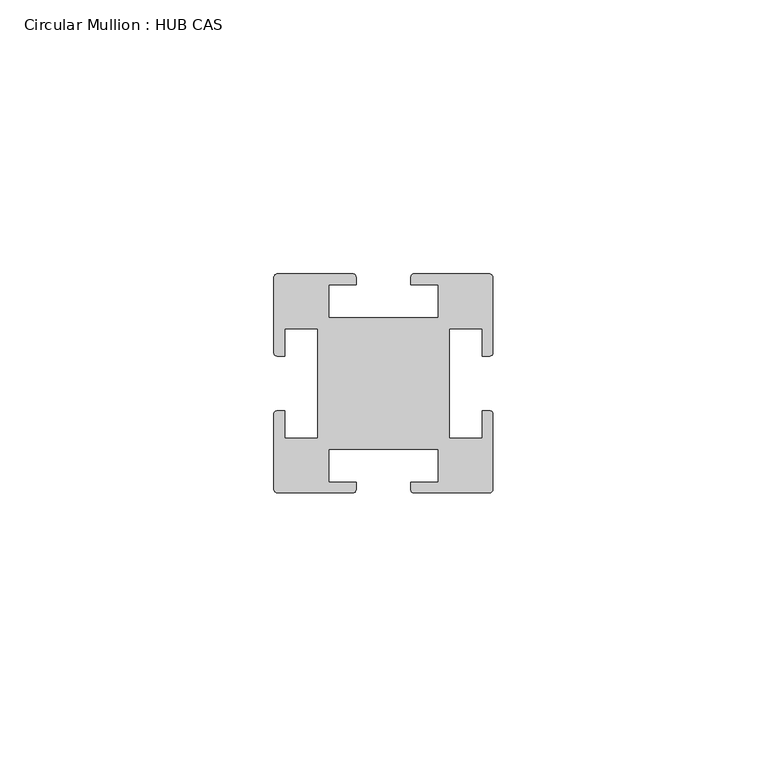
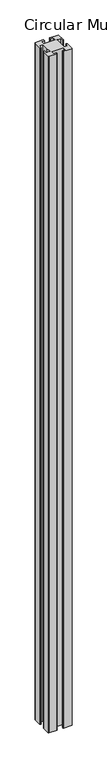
"""IFC4 building model written with IfcOpenShell, lengths in millimetres: member geometry, Circular Mullion : HUB CAS."""

from ifc_helpers import new_model, si_unit, point, frame, frame_2d, origin, place, context, project, spatial, polyline, circle_curve, trimmed, segment, composite_curve, outline, extrude, source, transform, mapped, element, save


def circular_mullion_hub_cas_b4c4e7a3(model_context):
    return source(origin(), model_context, "Body", "SweptSolid", [
        extrude(outline(composite_curve([segment(polyline([(5.601076, 2.0892375), (19.298924, 2.0892375)]), True, "CONTINUOUS"), segment(trimmed(circle_curve(frame_2d((19.298924, 1.3892375)), 0.7), [point((19.298924, 2.0892375))], [point((19.998924, 1.3892375))], False, "CARTESIAN"), True, "CONTINUOUS"), segment(polyline([(19.998924, 1.3892375), (19.998924, -12.3107625)]), True, "CONTINUOUS"), segment(trimmed(circle_curve(frame_2d((19.398924, -12.3107625)), 0.6), [point((19.998924, -12.3107625))], [point((19.398924, -12.9107625))], False, "CARTESIAN"), True, "CONTINUOUS"), segment(polyline([(19.398924, -12.9107625), (17.998924, -12.9107625), (17.998924, -7.9107625), (11.998924, -7.9107625), (11.998924, -17.9107625), (11.998924, -27.9107625), (17.998924, -27.9107625), (17.998924, -22.9107625), (19.398924, -22.9107625)]), True, "CONTINUOUS"), segment(trimmed(circle_curve(frame_2d((19.398924, -23.5107625)), 0.6), [point((19.398924, -22.9107625))], [point((19.998924, -23.5107625))], False, "CARTESIAN"), True, "CONTINUOUS"), segment(polyline([(19.998924, -23.5107625), (19.998924, -37.2107625)]), True, "CONTINUOUS"), segment(trimmed(circle_curve(frame_2d((19.298924, -37.2107625)), 0.7), [point((19.998924, -37.2107625))], [point((19.298924, -37.9107625))], False, "CARTESIAN"), True, "CONTINUOUS"), segment(polyline([(19.298924, -37.9107625), (5.601076, -37.9107625)]), True, "CONTINUOUS"), segment(trimmed(circle_curve(frame_2d((5.601076, -37.3107625)), 0.6), [point((5.601076, -37.9107625))], [point((5.001076, -37.3107625))], False, "CARTESIAN"), True, "CONTINUOUS"), segment(polyline([(5.001076, -37.3107625), (5.001076, -35.910257), (9.998924, -35.910257), (9.998924, -29.9107625), (-9.998924, -29.9107625), (-9.998924, -35.910257), (-5.001076, -35.910257), (-5.001076, -37.3107625)]), True, "CONTINUOUS"), segment(trimmed(circle_curve(frame_2d((-5.601076, -37.3107625)), 0.6), [point((-5.001076, -37.3107625))], [point((-5.601076, -37.9107625))], False, "CARTESIAN"), True, "CONTINUOUS"), segment(polyline([(-5.601076, -37.9107625), (-19.298924, -37.9107625)]), True, "CONTINUOUS"), segment(trimmed(circle_curve(frame_2d((-19.298924, -37.2107625)), 0.7), [point((-19.298924, -37.9107625))], [point((-19.998924, -37.2107625))], False, "CARTESIAN"), True, "CONTINUOUS"), segment(polyline([(-19.998924, -37.2107625), (-19.998924, -23.5107625)]), True, "CONTINUOUS"), segment(trimmed(circle_curve(frame_2d((-19.398924, -23.5107625)), 0.6), [point((-19.998924, -23.5107625))], [point((-19.398924, -22.9107625))], False, "CARTESIAN"), True, "CONTINUOUS"), segment(polyline([(-19.398924, -22.9107625), (-17.998924, -22.9107625), (-17.998924, -27.9107625), (-11.998924, -27.9107625), (-11.998924, -17.9107625), (-11.998924, -7.9107625), (-17.998924, -7.9107625), (-17.998924, -12.9107625), (-19.398924, -12.9107625)]), True, "CONTINUOUS"), segment(trimmed(circle_curve(frame_2d((-19.398924, -12.3107625)), 0.6), [point((-19.398924, -12.9107625))], [point((-19.998924, -12.3107625))], False, "CARTESIAN"), True, "CONTINUOUS"), segment(polyline([(-19.998924, -12.3107625), (-19.998924, 1.3892375)]), True, "CONTINUOUS"), segment(trimmed(circle_curve(frame_2d((-19.298924, 1.3892375)), 0.7), [point((-19.998924, 1.3892375))], [point((-19.298924, 2.0892375))], False, "CARTESIAN"), True, "CONTINUOUS"), segment(polyline([(-19.298924, 2.0892375), (-5.601076, 2.0892375)]), True, "CONTINUOUS"), segment(trimmed(circle_curve(frame_2d((-5.601076, 1.4892375)), 0.6), [point((-5.601076, 2.0892375))], [point((-5.001076, 1.4892375))], False, "CARTESIAN"), True, "CONTINUOUS"), segment(polyline([(-5.001076, 1.4892375), (-5.001076, 0.0887321), (-9.998924, 0.0887321), (-9.998924, -5.9107625), (9.998924, -5.9107625), (9.998924, 0.0887321), (5.001076, 0.0887321), (5.001076, 1.4892375)]), True, "CONTINUOUS"), segment(trimmed(circle_curve(frame_2d((5.601076, 1.4892375)), 0.6), [point((5.001076, 1.4892375))], [point((5.601076, 2.0892375))], False, "CARTESIAN"), True, "CONTINUOUS")], self_intersect=False)), frame((0.0, 0.0, -1200.0), z_axis=(0.0, 0.0, 1.0), x_axis=(1.0, 0.0, 0.0)), (0.0, 0.0, 1.0), 1200.0),
    ])


if __name__ == "__main__":
    model = new_model("IFC4")
    model_context = context("Model", 3, world=origin())
    ifc_project = project(units=[si_unit("LENGTHUNIT", "METRE", prefix="MILLI")], contexts=[model_context])
    site = spatial("IfcSite", under=ifc_project)
    building = spatial("IfcBuilding", under=site)
    placement = place(None, origin())
    circular_mullion_hub_cas_shape = circular_mullion_hub_cas_b4c4e7a3(model_context)
    element("IfcMember", 1, ObjectType="Circular Mullion : HUB CAS", at=placement, inside=building, context=model_context, shape_type="MappedRepresentation", body=[
        mapped(circular_mullion_hub_cas_shape, transform((0.0, 0.0, 0.0), x_axis=(1.0, 0.0, 0.0), y_axis=(0.0, 1.0, 0.0), z_axis=(0.0, 0.0, 1.0))),
    ])
    save(model, "model.ifc")
